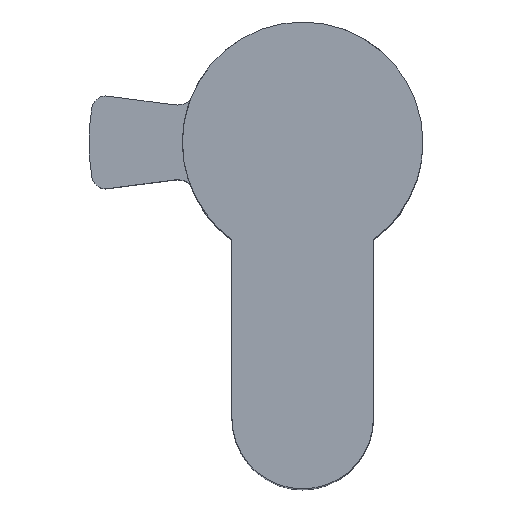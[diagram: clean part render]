
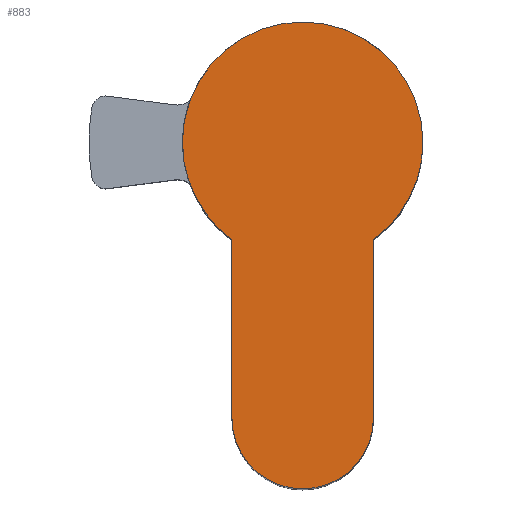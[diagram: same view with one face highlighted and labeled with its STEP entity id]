
A CAD part, top view. The second image highlights one B-rep face of the part: STEP entity #883.
In plain terms, the highlighted planar face has unit normal (0, 0, 1).
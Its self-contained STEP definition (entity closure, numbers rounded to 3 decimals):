
#9 = LINE ( 'NONE', #136, #1042 ) ;
#12 = VERTEX_POINT ( 'NONE', #1059 ) ;
#33 = EDGE_CURVE ( 'NONE', #474, #12, #77, .T. ) ;
#63 = CARTESIAN_POINT ( 'NONE',  ( -5., -6.874, 10. ) ) ;
#77 = LINE ( 'NONE', #688, #131 ) ;
#80 = EDGE_CURVE ( 'NONE', #12, #1388, #156, .T. ) ;
#113 = PLANE ( 'NONE',  #1136 ) ;
#123 = VERTEX_POINT ( 'NONE', #1103 ) ;
#131 = VECTOR ( 'NONE', #1438, 1000. ) ;
#136 = CARTESIAN_POINT ( 'NONE',  ( -5., -6.874, 10. ) ) ;
#148 = CARTESIAN_POINT ( 'NONE',  ( 0., 0., 10. ) ) ;
#156 = CIRCLE ( 'NONE', #770, 8.5 ) ;
#175 = CARTESIAN_POINT ( 'NONE',  ( -8.5, 0., 10. ) ) ;
#183 = EDGE_CURVE ( 'NONE', #1388, #1190, #1331, .T. ) ;
#242 = DIRECTION ( 'NONE',  ( 1., 0., 0. ) ) ;
#250 = ORIENTED_EDGE ( 'NONE', *, *, #1335, .T. ) ;
#270 = DIRECTION ( 'NONE',  ( 0., 0., 1. ) ) ;
#329 = AXIS2_PLACEMENT_3D ( 'NONE', #607, #932, #1543 ) ;
#474 = VERTEX_POINT ( 'NONE', #1177 ) ;
#475 = CARTESIAN_POINT ( 'NONE',  ( 0., 0., 10. ) ) ;
#494 = DIRECTION ( 'NONE',  ( 1., 0., 0. ) ) ;
#579 = EDGE_LOOP ( 'NONE', ( #1440, #1209, #608, #1032, #250, #1396 ) ) ;
#602 = AXIS2_PLACEMENT_3D ( 'NONE', #1234, #612, #242 ) ;
#607 = CARTESIAN_POINT ( 'NONE',  ( 0., -19.5, 10. ) ) ;
#608 = ORIENTED_EDGE ( 'NONE', *, *, #645, .T. ) ;
#612 = DIRECTION ( 'NONE',  ( 0., 0., 1. ) ) ;
#630 = DIRECTION ( 'NONE',  ( 1., 0., 0. ) ) ;
#645 = EDGE_CURVE ( 'NONE', #1190, #685, #1088, .T. ) ;
#685 = VERTEX_POINT ( 'NONE', #63 ) ;
#688 = CARTESIAN_POINT ( 'NONE',  ( 5., -19.5, 10. ) ) ;
#708 = FACE_OUTER_BOUND ( 'NONE', #579, .T. ) ;
#743 = AXIS2_PLACEMENT_3D ( 'NONE', #148, #270, #630 ) ;
#762 = CIRCLE ( 'NONE', #329, 5. ) ;
#770 = AXIS2_PLACEMENT_3D ( 'NONE', #1308, #1446, #838 ) ;
#825 = DIRECTION ( 'NONE',  ( 0., 0., 1. ) ) ;
#838 = DIRECTION ( 'NONE',  ( 1., 0., 0. ) ) ;
#883 = ADVANCED_FACE ( 'NONE', ( #708 ), #113, .T. ) ;
#885 = DIRECTION ( 'NONE',  ( 0., -1., 0. ) ) ;
#932 = DIRECTION ( 'NONE',  ( 0., 0., 1. ) ) ;
#1032 = ORIENTED_EDGE ( 'NONE', *, *, #1365, .T. ) ;
#1042 = VECTOR ( 'NONE', #885, 1000. ) ;
#1059 = CARTESIAN_POINT ( 'NONE',  ( 5., -6.874, 10. ) ) ;
#1088 = CIRCLE ( 'NONE', #602, 8.5 ) ;
#1103 = CARTESIAN_POINT ( 'NONE',  ( -5., -19.5, 10. ) ) ;
#1136 = AXIS2_PLACEMENT_3D ( 'NONE', #475, #825, #494 ) ;
#1177 = CARTESIAN_POINT ( 'NONE',  ( 5., -19.5, 10. ) ) ;
#1190 = VERTEX_POINT ( 'NONE', #175 ) ;
#1209 = ORIENTED_EDGE ( 'NONE', *, *, #183, .T. ) ;
#1230 = CARTESIAN_POINT ( 'NONE',  ( 8.5, 0., 10. ) ) ;
#1234 = CARTESIAN_POINT ( 'NONE',  ( 0., 0., 10. ) ) ;
#1308 = CARTESIAN_POINT ( 'NONE',  ( 0., 0., 10. ) ) ;
#1331 = CIRCLE ( 'NONE', #743, 8.5 ) ;
#1335 = EDGE_CURVE ( 'NONE', #123, #474, #762, .T. ) ;
#1365 = EDGE_CURVE ( 'NONE', #685, #123, #9, .T. ) ;
#1388 = VERTEX_POINT ( 'NONE', #1230 ) ;
#1396 = ORIENTED_EDGE ( 'NONE', *, *, #33, .T. ) ;
#1438 = DIRECTION ( 'NONE',  ( 0., 1., 0. ) ) ;
#1440 = ORIENTED_EDGE ( 'NONE', *, *, #80, .T. ) ;
#1446 = DIRECTION ( 'NONE',  ( 0., 0., 1. ) ) ;
#1543 = DIRECTION ( 'NONE',  ( 1., 0., 0. ) ) ;
